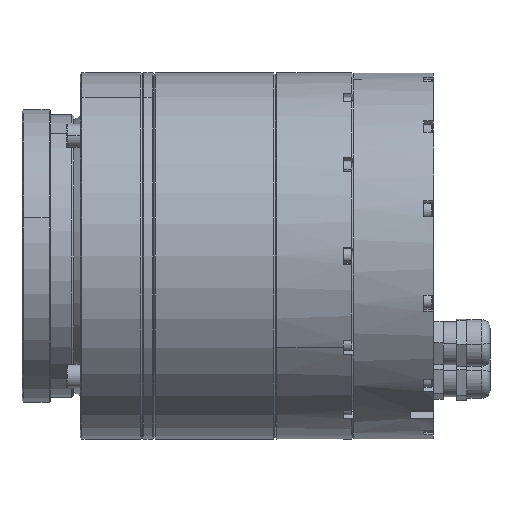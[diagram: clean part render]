
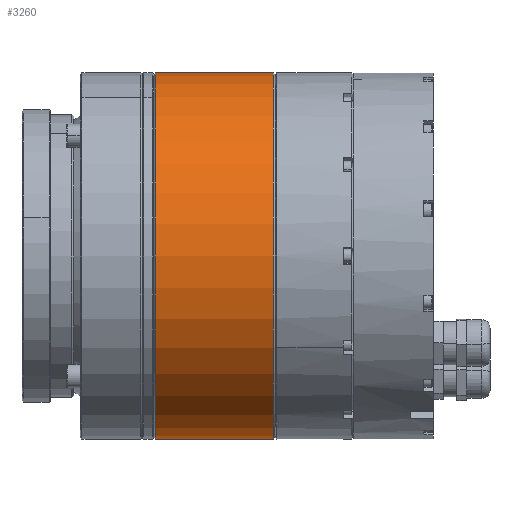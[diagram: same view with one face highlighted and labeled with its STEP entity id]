
A CAD part, front view. The second image highlights one B-rep face of the part: STEP entity #3260.
In plain terms, the highlighted cylindrical face has radius 55 mm (diameter 110 mm), a partial arc.
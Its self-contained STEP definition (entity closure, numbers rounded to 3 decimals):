
#1930 = VECTOR ( 'NONE', #44407, 1000. ) ;
#2344 = ORIENTED_EDGE ( 'NONE', *, *, #15975, .F. ) ;
#3260 = ADVANCED_FACE ( 'NONE', ( #66934 ), #19063, .T. ) ;
#5115 = DIRECTION ( 'NONE',  ( 0., 0., 1. ) ) ;
#5389 = VECTOR ( 'NONE', #14904, 1000. ) ;
#7648 = ORIENTED_EDGE ( 'NONE', *, *, #13353, .T. ) ;
#7937 = DIRECTION ( 'NONE',  ( 0., 0., -1. ) ) ;
#8057 = CARTESIAN_POINT ( 'NONE',  ( 38.5, 0., -55. ) ) ;
#8898 = CIRCLE ( 'NONE', #49509, 55. ) ;
#9297 = VERTEX_POINT ( 'NONE', #21566 ) ;
#10526 = CARTESIAN_POINT ( 'NONE',  ( 38., 0., -55. ) ) ;
#10797 = DIRECTION ( 'NONE',  ( 1., 0., 0. ) ) ;
#11914 = ORIENTED_EDGE ( 'NONE', *, *, #50426, .T. ) ;
#11926 = LINE ( 'NONE', #20091, #5389 ) ;
#12059 = VERTEX_POINT ( 'NONE', #10526 ) ;
#13353 = EDGE_CURVE ( 'NONE', #25108, #14016, #11926, .T. ) ;
#13415 = CIRCLE ( 'NONE', #17150, 55. ) ;
#14016 = VERTEX_POINT ( 'NONE', #57361 ) ;
#14904 = DIRECTION ( 'NONE',  ( -1., 0., 0. ) ) ;
#15975 = EDGE_CURVE ( 'NONE', #12059, #9297, #38530, .T. ) ;
#17150 = AXIS2_PLACEMENT_3D ( 'NONE', #29051, #54672, #7937 ) ;
#19063 = CYLINDRICAL_SURFACE ( 'NONE', #28582, 55. ) ;
#19314 = DIRECTION ( 'NONE',  ( -1., 0., 0. ) ) ;
#20091 = CARTESIAN_POINT ( 'NONE',  ( 38.5, 0., 55. ) ) ;
#21566 = CARTESIAN_POINT ( 'NONE',  ( 2.5, 0., -55. ) ) ;
#25108 = VERTEX_POINT ( 'NONE', #46268 ) ;
#28582 = AXIS2_PLACEMENT_3D ( 'NONE', #29072, #19314, #29767 ) ;
#29051 = CARTESIAN_POINT ( 'NONE',  ( 38., 0., 0. ) ) ;
#29072 = CARTESIAN_POINT ( 'NONE',  ( 38.5, 0., 0. ) ) ;
#29767 = DIRECTION ( 'NONE',  ( 0., 0., 1. ) ) ;
#38077 = EDGE_LOOP ( 'NONE', ( #2344, #11914, #7648, #57019 ) ) ;
#38530 = LINE ( 'NONE', #8057, #1930 ) ;
#44407 = DIRECTION ( 'NONE',  ( -1., 0., 0. ) ) ;
#46268 = CARTESIAN_POINT ( 'NONE',  ( 38., 0., 55. ) ) ;
#47357 = EDGE_CURVE ( 'NONE', #14016, #9297, #8898, .T. ) ;
#49509 = AXIS2_PLACEMENT_3D ( 'NONE', #63151, #10797, #5115 ) ;
#50426 = EDGE_CURVE ( 'NONE', #12059, #25108, #13415, .T. ) ;
#54672 = DIRECTION ( 'NONE',  ( -1., 0., 0. ) ) ;
#57019 = ORIENTED_EDGE ( 'NONE', *, *, #47357, .T. ) ;
#57361 = CARTESIAN_POINT ( 'NONE',  ( 2.5, 0., 55. ) ) ;
#63151 = CARTESIAN_POINT ( 'NONE',  ( 2.5, 0., 0. ) ) ;
#66934 = FACE_OUTER_BOUND ( 'NONE', #38077, .T. ) ;
